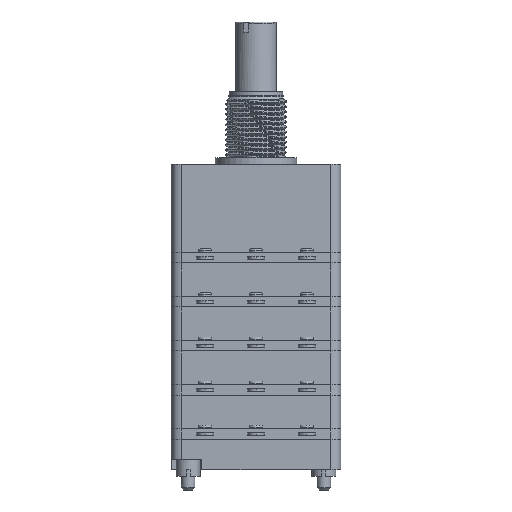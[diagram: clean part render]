
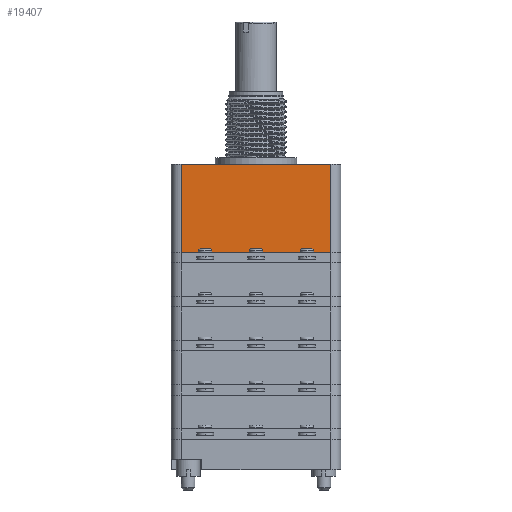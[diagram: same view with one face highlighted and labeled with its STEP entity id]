
A CAD part, front view. The second image highlights one B-rep face of the part: STEP entity #19407.
In plain terms, the highlighted planar face has unit normal (0, -1, 0).
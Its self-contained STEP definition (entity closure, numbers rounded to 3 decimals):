
#15930 = PLANE('',#15931);
#15931 = AXIS2_PLACEMENT_3D('',#15932,#15933,#15934);
#15932 = CARTESIAN_POINT('',(-12.5,-18.,-14.));
#15933 = DIRECTION('',(0.,0.,1.));
#15934 = DIRECTION('',(1.,0.,0.));
#18038 = VERTEX_POINT('',#18039);
#18039 = CARTESIAN_POINT('',(11.,-12.5,-14.));
#18054 = CYLINDRICAL_SURFACE('',#18055,1.5);
#18055 = AXIS2_PLACEMENT_3D('',#18056,#18057,#18058);
#18056 = CARTESIAN_POINT('',(11.,-11.,-14.));
#18057 = DIRECTION('',(0.,0.,1.));
#18058 = DIRECTION('',(0.,-1.,0.));
#18066 = EDGE_CURVE('',#18067,#18038,#18069,.T.);
#18067 = VERTEX_POINT('',#18068);
#18068 = CARTESIAN_POINT('',(-11.,-12.5,-14.));
#18069 = SURFACE_CURVE('',#18070,(#18074,#18081),.PCURVE_S1.);
#18070 = LINE('',#18071,#18072);
#18071 = CARTESIAN_POINT('',(-12.5,-12.5,-14.));
#18072 = VECTOR('',#18073,1.);
#18073 = DIRECTION('',(1.,0.,0.));
#18074 = PCURVE('',#15930,#18075);
#18075 = DEFINITIONAL_REPRESENTATION('',(#18076),#18080);
#18076 = LINE('',#18077,#18078);
#18077 = CARTESIAN_POINT('',(0.,5.5));
#18078 = VECTOR('',#18079,1.);
#18079 = DIRECTION('',(1.,0.));
#18080 = ( GEOMETRIC_REPRESENTATION_CONTEXT(2) 
PARAMETRIC_REPRESENTATION_CONTEXT() REPRESENTATION_CONTEXT('2D SPACE',''
  ) );
#18081 = PCURVE('',#18082,#18087);
#18082 = PLANE('',#18083);
#18083 = AXIS2_PLACEMENT_3D('',#18084,#18085,#18086);
#18084 = CARTESIAN_POINT('',(-12.5,-12.5,-14.));
#18085 = DIRECTION('',(0.,1.,0.));
#18086 = DIRECTION('',(0.,0.,1.));
#18087 = DEFINITIONAL_REPRESENTATION('',(#18088),#18092);
#18088 = LINE('',#18089,#18090);
#18089 = CARTESIAN_POINT('',(0.,0.));
#18090 = VECTOR('',#18091,1.);
#18091 = DIRECTION('',(0.,1.));
#18092 = ( GEOMETRIC_REPRESENTATION_CONTEXT(2) 
PARAMETRIC_REPRESENTATION_CONTEXT() REPRESENTATION_CONTEXT('2D SPACE',''
  ) );
#18109 = CYLINDRICAL_SURFACE('',#18110,1.5);
#18110 = AXIS2_PLACEMENT_3D('',#18111,#18112,#18113);
#18111 = CARTESIAN_POINT('',(-11.,-11.,-14.));
#18112 = DIRECTION('',(0.,0.,1.));
#18113 = DIRECTION('',(-1.,0.,0.));
#18247 = PLANE('',#18248);
#18248 = AXIS2_PLACEMENT_3D('',#18249,#18250,#18251);
#18249 = CARTESIAN_POINT('',(-12.5,-12.5,-1.));
#18250 = DIRECTION('',(0.,0.,1.));
#18251 = DIRECTION('',(1.,0.,0.));
#19340 = EDGE_CURVE('',#18067,#19341,#19343,.T.);
#19341 = VERTEX_POINT('',#19342);
#19342 = CARTESIAN_POINT('',(-11.,-12.5,-1.));
#19343 = SURFACE_CURVE('',#19344,(#19348,#19355),.PCURVE_S1.);
#19344 = LINE('',#19345,#19346);
#19345 = CARTESIAN_POINT('',(-11.,-12.5,-14.));
#19346 = VECTOR('',#19347,1.);
#19347 = DIRECTION('',(0.,0.,1.));
#19348 = PCURVE('',#18109,#19349);
#19349 = DEFINITIONAL_REPRESENTATION('',(#19350),#19354);
#19350 = LINE('',#19351,#19352);
#19351 = CARTESIAN_POINT('',(1.571,0.));
#19352 = VECTOR('',#19353,1.);
#19353 = DIRECTION('',(0.,1.));
#19354 = ( GEOMETRIC_REPRESENTATION_CONTEXT(2) 
PARAMETRIC_REPRESENTATION_CONTEXT() REPRESENTATION_CONTEXT('2D SPACE',''
  ) );
#19355 = PCURVE('',#18082,#19356);
#19356 = DEFINITIONAL_REPRESENTATION('',(#19357),#19361);
#19357 = LINE('',#19358,#19359);
#19358 = CARTESIAN_POINT('',(0.,1.5));
#19359 = VECTOR('',#19360,1.);
#19360 = DIRECTION('',(1.,0.));
#19361 = ( GEOMETRIC_REPRESENTATION_CONTEXT(2) 
PARAMETRIC_REPRESENTATION_CONTEXT() REPRESENTATION_CONTEXT('2D SPACE',''
  ) );
#19407 = ADVANCED_FACE('',(#19408),#18082,.F.);
#19408 = FACE_BOUND('',#19409,.F.);
#19409 = EDGE_LOOP('',(#19410,#19411,#19412,#19435));
#19410 = ORIENTED_EDGE('',*,*,#18066,.F.);
#19411 = ORIENTED_EDGE('',*,*,#19340,.T.);
#19412 = ORIENTED_EDGE('',*,*,#19413,.T.);
#19413 = EDGE_CURVE('',#19341,#19414,#19416,.T.);
#19414 = VERTEX_POINT('',#19415);
#19415 = CARTESIAN_POINT('',(11.,-12.5,-1.));
#19416 = SURFACE_CURVE('',#19417,(#19421,#19428),.PCURVE_S1.);
#19417 = LINE('',#19418,#19419);
#19418 = CARTESIAN_POINT('',(-12.5,-12.5,-1.));
#19419 = VECTOR('',#19420,1.);
#19420 = DIRECTION('',(1.,0.,0.));
#19421 = PCURVE('',#18082,#19422);
#19422 = DEFINITIONAL_REPRESENTATION('',(#19423),#19427);
#19423 = LINE('',#19424,#19425);
#19424 = CARTESIAN_POINT('',(13.,0.));
#19425 = VECTOR('',#19426,1.);
#19426 = DIRECTION('',(0.,1.));
#19427 = ( GEOMETRIC_REPRESENTATION_CONTEXT(2) 
PARAMETRIC_REPRESENTATION_CONTEXT() REPRESENTATION_CONTEXT('2D SPACE',''
  ) );
#19428 = PCURVE('',#18247,#19429);
#19429 = DEFINITIONAL_REPRESENTATION('',(#19430),#19434);
#19430 = LINE('',#19431,#19432);
#19431 = CARTESIAN_POINT('',(0.,0.));
#19432 = VECTOR('',#19433,1.);
#19433 = DIRECTION('',(1.,0.));
#19434 = ( GEOMETRIC_REPRESENTATION_CONTEXT(2) 
PARAMETRIC_REPRESENTATION_CONTEXT() REPRESENTATION_CONTEXT('2D SPACE',''
  ) );
#19435 = ORIENTED_EDGE('',*,*,#19436,.F.);
#19436 = EDGE_CURVE('',#18038,#19414,#19437,.T.);
#19437 = SURFACE_CURVE('',#19438,(#19442,#19449),.PCURVE_S1.);
#19438 = LINE('',#19439,#19440);
#19439 = CARTESIAN_POINT('',(11.,-12.5,-14.));
#19440 = VECTOR('',#19441,1.);
#19441 = DIRECTION('',(0.,0.,1.));
#19442 = PCURVE('',#18082,#19443);
#19443 = DEFINITIONAL_REPRESENTATION('',(#19444),#19448);
#19444 = LINE('',#19445,#19446);
#19445 = CARTESIAN_POINT('',(0.,23.5));
#19446 = VECTOR('',#19447,1.);
#19447 = DIRECTION('',(1.,0.));
#19448 = ( GEOMETRIC_REPRESENTATION_CONTEXT(2) 
PARAMETRIC_REPRESENTATION_CONTEXT() REPRESENTATION_CONTEXT('2D SPACE',''
  ) );
#19449 = PCURVE('',#18054,#19450);
#19450 = DEFINITIONAL_REPRESENTATION('',(#19451),#19455);
#19451 = LINE('',#19452,#19453);
#19452 = CARTESIAN_POINT('',(0.,0.));
#19453 = VECTOR('',#19454,1.);
#19454 = DIRECTION('',(0.,1.));
#19455 = ( GEOMETRIC_REPRESENTATION_CONTEXT(2) 
PARAMETRIC_REPRESENTATION_CONTEXT() REPRESENTATION_CONTEXT('2D SPACE',''
  ) );
